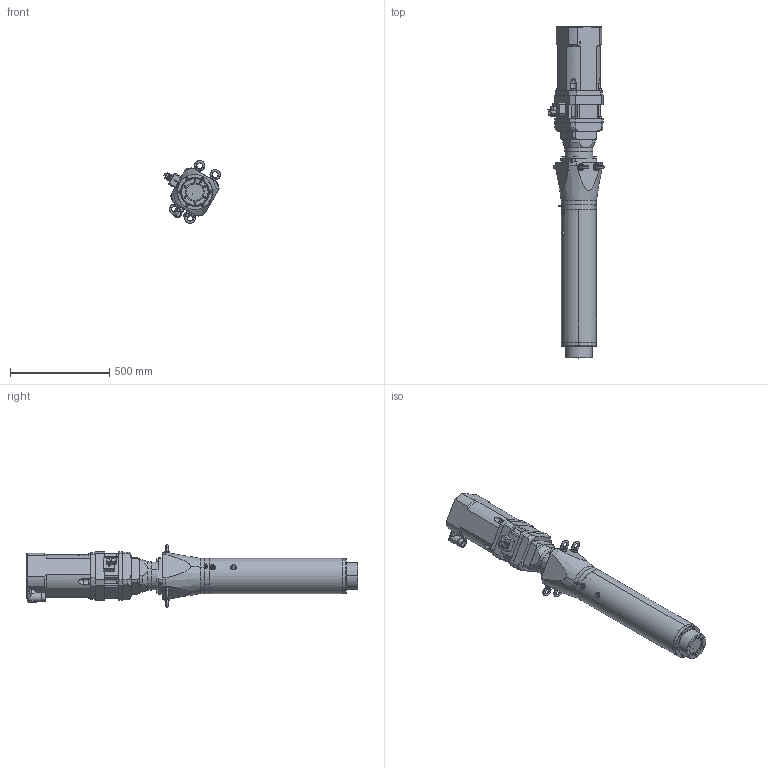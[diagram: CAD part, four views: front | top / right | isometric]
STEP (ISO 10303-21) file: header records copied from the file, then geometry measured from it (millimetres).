
FILE_DESCRIPTION (( 'STEP AP203' ), '1' );
FILE_NAME ('LN5I1000-035-020SG0.STEP', '2014-11-18T08:02:16', ( 'Holtz' ), ( '' ), 'SwSTEP 2.0', 'SolidWorks 2013', '' );
FILE_SCHEMA (( 'CONFIG_CONTROL_DESIGN' ));
Length unit declared in the file: millimetre
Products named in the file (1): LN5I1000-035-020SG0
Bounding box: 286.96 x 1675.5 x 317.97 mm (x, y, z)
Volume: 37622806.2 mm3; surface area: 2562435.8 mm2
Topology: 38 solids, 38 shells, 1496 faces, 3550 edges, 2124 vertices
Faces by surface type: cylinder 570, plane 520, cone 228, torus 102, bspline 74, sphere 2
Entity records: 48625 total; most frequent: CARTESIAN_POINT 14324, DIRECTION 7503, ORIENTED_EDGE 6776, EDGE_CURVE 3388, AXIS2_PLACEMENT_3D 2947, VERTEX_POINT 2124, EDGE_LOOP 1750, VECTOR 1609
